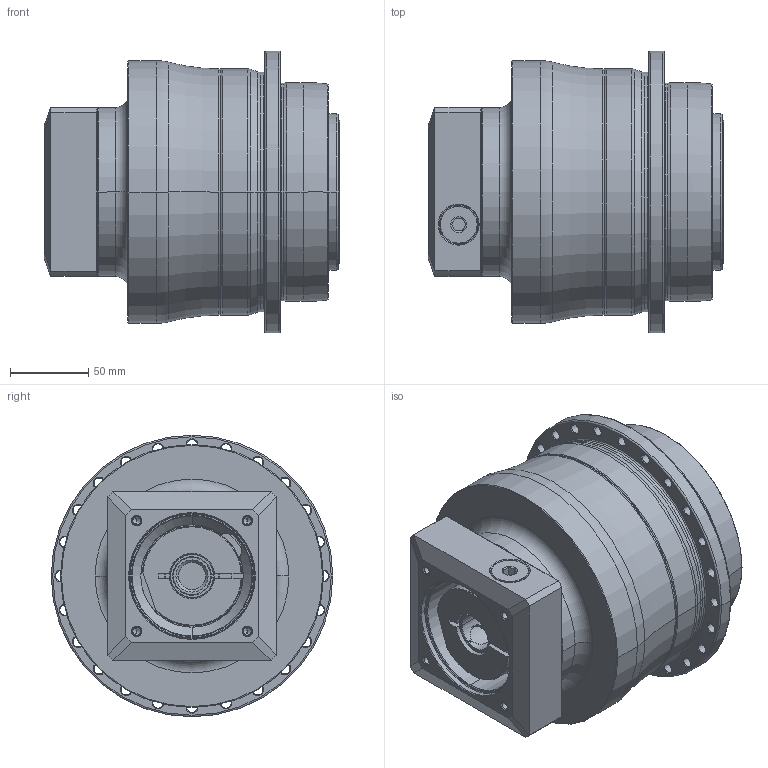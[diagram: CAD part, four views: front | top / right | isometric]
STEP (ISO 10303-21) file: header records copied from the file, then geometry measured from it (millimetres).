
FILE_DESCRIPTION((''),'2;1');
FILE_NAME('AP140_2ST_24-P0409510201_ASM','2018-05-29T',('d01226'),(''),'PRO/ENGINEER BY PARAMETRIC TECHNOLOGY CORPORATION, 2008410','PRO/ENGINEER BY PARAMETRIC TECHNOLOGY CORPORATION, 2008410','');
FILE_SCHEMA(('CONFIG_CONTROL_DESIGN'));
Length unit declared in the file: millimetre
Products named in the file (9): P0278501003; P0359501103; P1317510101; P0503500010; P0912451001; P1211500001; P0409510201; 21711418017; AP140_2ST_24-P0409510201_ASM
Assembly tree (8 placements, depth 2):
  AP140_2ST_24-P0409510201_ASM
    P0278501003
    P0359501103
    P1317510101
    P0503500010
    P0912451001
    P1211500001
    P0409510201
    21711418017
Bounding box: 189 x 180 x 180 mm (x, y, z)
Volume: 2684246.8 mm3; surface area: 307680.7 mm2
Topology: 9 solids, 34 shells, 640 faces, 1492 edges, 922 vertices
Faces by surface type: cylinder 271, cone 177, plane 108, torus 70, bspline 14
Entity records: 23633 total; most frequent: CARTESIAN_POINT 8199, DIRECTION 3547, ORIENTED_EDGE 2866, AXIS2_PLACEMENT_3D 1517, EDGE_CURVE 1484, VERTEX_POINT 922, CIRCLE 864, EDGE_LOOP 796
